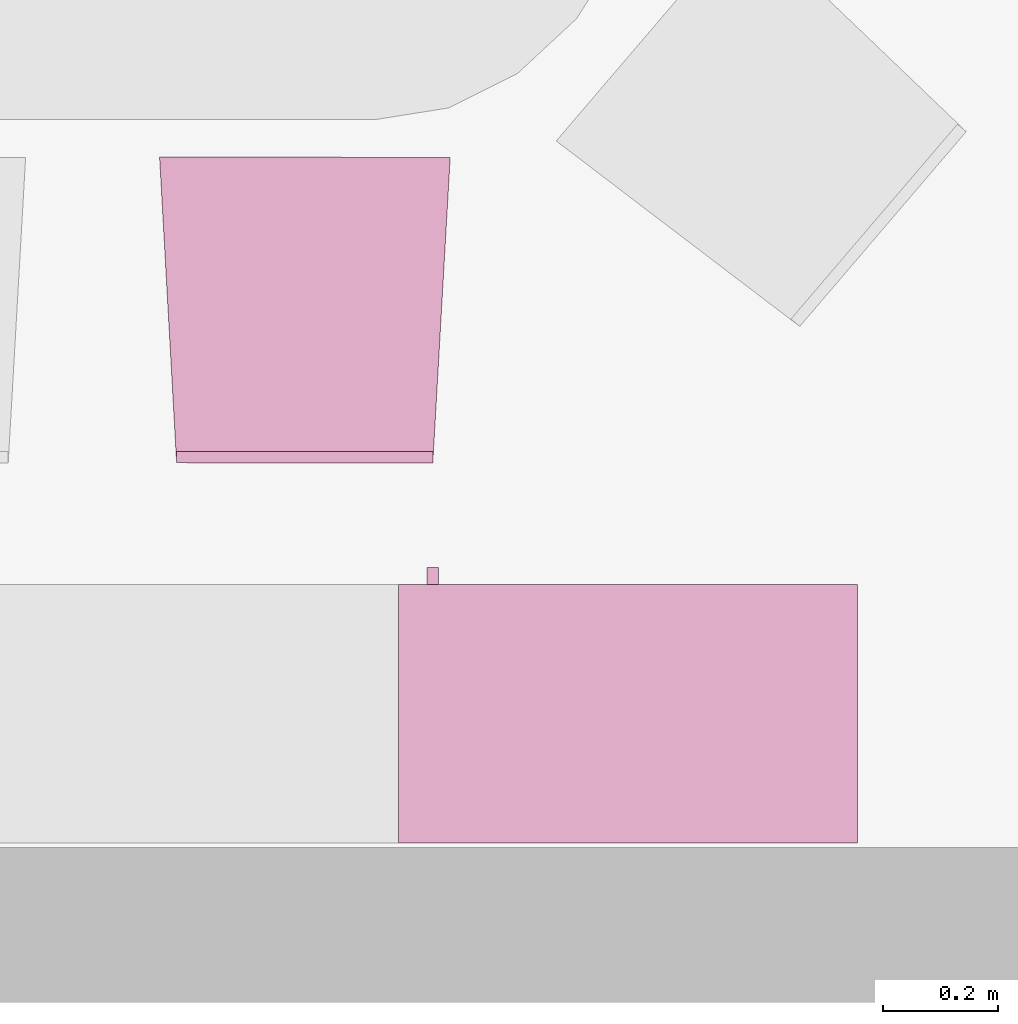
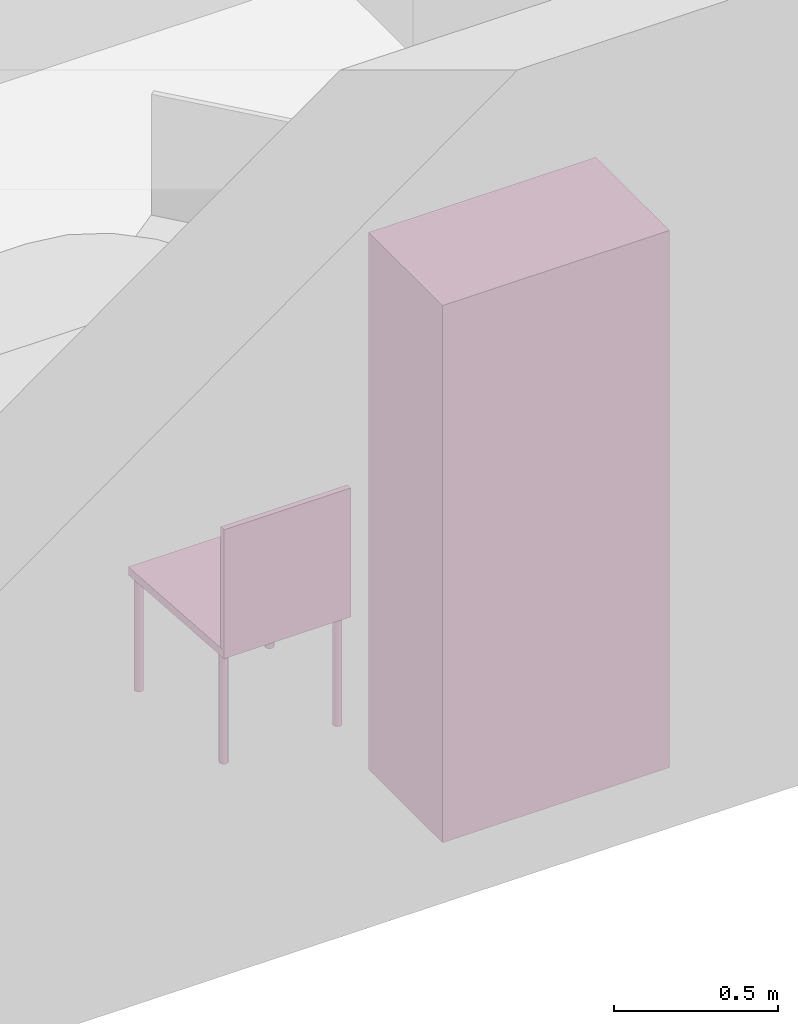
"""IFC4 building model written with IfcOpenShell, lengths in metres."""

from ifc_helpers import new_model, entity, si_unit, converted_unit, derived_unit, frame, origin, place, context, subcontext, project, spatial, faceted_brep, element, save


model = new_model("IFC4")

# Units and contexts
model_context = context("Model", 3, precision=1e-05, world=origin())
body_context = subcontext(model_context, "Body", "Model", "MODEL_VIEW")
ifc_project = project(units=[si_unit("LENGTHUNIT", "METRE"), si_unit("AREAUNIT", "SQUARE_METRE"), si_unit("VOLUMEUNIT", "CUBIC_METRE"), si_unit("MASSUNIT", "GRAM", prefix="KILO"), converted_unit("PLANEANGLEUNIT", "DEGREE", entity("IfcPlaneAngleMeasure", 0.0174532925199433), si_unit("PLANEANGLEUNIT", "RADIAN"), dimensions=[0, 0, 0, 0, 0, 0, 0]), derived_unit("THERMALTRANSMITTANCEUNIT", [(si_unit("POWERUNIT", "WATT"), 1), (si_unit("THERMODYNAMICTEMPERATUREUNIT", "KELVIN"), -1), (si_unit("LENGTHUNIT", "METRE"), -2)]), derived_unit("VOLUMETRICFLOWRATEUNIT", [(si_unit("LENGTHUNIT", "METRE"), 3), (converted_unit("TIMEUNIT", "hour", entity("IfcTimeMeasure", 3600.0), si_unit("TIMEUNIT", "SECOND"), dimensions=[0, 0, 1, 0, 0, 0, 0]), -1), (si_unit("LENGTHUNIT", "METRE"), -1)])], contexts=[model_context])

# Building, storeys
building_placement = place(None, origin())
building = spatial("IfcBuilding", under=ifc_project, at=building_placement, Name="HABITATGE PLURIFAMILIAR", CompositionType="ELEMENT")
storey_1_placement = place(building_placement, frame((0.0, 0.0, 12.27)))
storey_1 = spatial("IfcBuildingStorey", under=building, at=storey_1_placement, Name="PLANTA TERCERA", CompositionType="ELEMENT", Elevation=12.27)
storey_2_placement = place(storey_1_placement, frame((0.0, 0.0, 9.26)))
storey_2 = spatial("IfcBuildingStorey", under=storey_1, at=storey_2_placement, Name="NOU", CompositionType="PARTIAL")

# Furniture
furniture_1_placement = place(storey_2_placement, frame((409.209676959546, 13.1187866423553, -9.3599999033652)))
element("IfcFurniture", 1, at=furniture_1_placement, inside=storey_2, Name="Armai 80x45_P3", context=body_context, shape_type="Brep", body=[
    faceted_brep([(0.78, 0.430000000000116, 1.98), (0.78, 0.450000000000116, 1.98), (0.78, 0.450000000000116, 0.02), (0.78, 0.430000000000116, 0.02), (0.0, 0.450000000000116, 0.02), (0.0, 0.430000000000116, 0.02), (0.0, 0.450000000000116, 1.98), (0.0, 0.430000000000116, 1.98)], [[[0, 1, 2, 3]], [[3, 2, 4, 5]], [[5, 4, 6, 7]], [[7, 6, 1, 0]], [[0, 3, 5, 7]], [[1, 6, 4, 2]]], orient=[[False], [False], [False], [False], [False], [False]]),
    faceted_brep([(0.8, 0.450000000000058, 1.98), (0.78, 0.450000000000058, 1.98), (0.78, 0.450000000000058, 0.02), (0.8, 0.450000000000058, 0.02), (0.78, 0.0, 0.02), (0.8, 0.0, 0.02), (0.78, 0.0, 1.98), (0.8, 0.0, 1.98)], [[[0, 1, 2, 3]], [[3, 2, 4, 5]], [[5, 4, 6, 7]], [[7, 6, 1, 0]], [[0, 3, 5, 7]], [[1, 6, 4, 2]]], orient=[[False], [False], [False], [False], [False], [False]]),
    faceted_brep([(0.0, 0.450000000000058, 0.02), (0.0, 0.450000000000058, 0.0), (0.8, 0.450000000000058, 0.0), (0.8, 0.450000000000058, 0.02), (0.8, 0.0, 0.0), (0.8, 0.0, 0.02), (0.0, 0.0, 0.0), (0.0, 0.0, 0.02)], [[[0, 1, 2, 3]], [[3, 2, 4, 5]], [[5, 4, 6, 7]], [[7, 6, 1, 0]], [[0, 3, 5, 7]], [[1, 6, 4, 2]]], orient=[[False], [False], [False], [False], [False], [False]]),
    faceted_brep([(0.0, 0.450000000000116, 2.0), (0.0, 0.450000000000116, 1.98), (0.8, 0.450000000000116, 1.98), (0.8, 0.450000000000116, 2.0), (0.8, 0.0, 1.98), (0.8, 0.0, 2.0), (0.0, 0.0, 1.98), (0.0, 0.0, 2.0)], [[[0, 1, 2, 3]], [[3, 2, 4, 5]], [[5, 4, 6, 7]], [[7, 6, 1, 0]], [[0, 3, 5, 7]], [[1, 6, 4, 2]]], orient=[[False], [False], [False], [False], [False], [False]]),
    faceted_brep([(0.02, 0.450000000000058, 1.98), (0.0, 0.450000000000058, 1.98), (0.0, 0.450000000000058, 0.02), (0.02, 0.450000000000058, 0.02), (0.0, 0.0, 0.02), (0.02, 0.0, 0.02), (0.0, 0.0, 1.98), (0.02, 0.0, 1.98)], [[[0, 1, 2, 3]], [[3, 2, 4, 5]], [[5, 4, 6, 7]], [[7, 6, 1, 0]], [[0, 3, 5, 7]], [[1, 6, 4, 2]]], orient=[[False], [False], [False], [False], [False], [False]]),
    faceted_brep([(0.78, 0.0, 1.98), (0.78, 0.0200000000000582, 1.98), (0.78, 0.0200000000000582, 0.02), (0.78, 0.0, 0.02), (0.02, 0.0200000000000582, 0.02), (0.02, 0.0, 0.02), (0.02, 0.0200000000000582, 1.98), (0.02, 0.0, 1.98)], [[[0, 1, 2, 3]], [[3, 2, 4, 5]], [[5, 4, 6, 7]], [[7, 6, 1, 0]], [[0, 3, 5, 7]], [[1, 6, 4, 2]]], orient=[[False], [False], [False], [False], [False], [False]]),
    faceted_brep([(0.0, 0.430000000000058, 1.98), (0.0, 0.450000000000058, 1.98), (0.0, 0.450000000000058, 0.02), (0.0, 0.430000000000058, 0.02), (0.02, 0.450000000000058, 0.02), (0.02, 0.430000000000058, 0.02), (0.02, 0.450000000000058, 1.98), (0.02, 0.430000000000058, 1.98)], [[[0, 1, 2, 3]], [[3, 2, 4, 5]], [[5, 4, 6, 7]], [[7, 6, 1, 0]], [[0, 3, 5, 7]], [[1, 6, 4, 2]]], orient=[[False], [False], [False], [False], [False], [False]]),
    faceted_brep([(0.07, 0.450000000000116, 1.01806481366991), (0.07, 0.480000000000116, 1.01806481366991), (0.07, 0.480000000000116, 0.918064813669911), (0.07, 0.450000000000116, 0.918064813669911), (0.05, 0.480000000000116, 0.918064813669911), (0.05, 0.450000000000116, 0.918064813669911), (0.05, 0.480000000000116, 1.01806481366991), (0.05, 0.450000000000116, 1.01806481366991)], [[[0, 1, 2, 3]], [[3, 2, 4, 5]], [[5, 4, 6, 7]], [[7, 6, 1, 0]], [[0, 3, 5, 7]], [[1, 6, 4, 2]]], orient=[[False], [False], [False], [False], [False], [False]]),
])
furniture_2_placement = place(storey_2_placement, frame((408.793371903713, 13.7810152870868, -9.35960511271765)))
element("IfcFurniture", 2, at=furniture_2_placement, inside=storey_2, Name="Cadira confident_P3", context=body_context, shape_type="Brep", body=[
    faceted_brep([(0.49721229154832, 0.507507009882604, 0.0), (0.496985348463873, 0.510100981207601, 0.0), (0.496311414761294, 0.512616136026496, 0.0), (0.495210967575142, 0.514976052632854, 0.0), (0.493717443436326, 0.517109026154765, 0.0), (0.491876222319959, 0.518950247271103, 0.0), (0.48974324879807, 0.520443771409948, 0.0), (0.487383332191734, 0.5215442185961, 0.0), (0.484868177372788, 0.522218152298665, 0.0), (0.482274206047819, 0.522445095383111, 0.0), (0.479680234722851, 0.522218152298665, 0.0), (0.477165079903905, 0.5215442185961, 0.0), (0.474805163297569, 0.520443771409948, 0.0), (0.47267218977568, 0.518950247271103, 0.0), (0.470830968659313, 0.517109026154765, 0.0), (0.469337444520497, 0.514976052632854, 0.0), (0.468236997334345, 0.512616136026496, 0.0), (0.467563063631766, 0.510100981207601, 0.0), (0.467336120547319, 0.507507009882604, 0.0), (0.467563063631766, 0.504913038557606, 0.0), (0.468236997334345, 0.502397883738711, 0.0), (0.469337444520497, 0.500037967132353, 0.0), (0.470830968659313, 0.497904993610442, 0.0), (0.47267218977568, 0.496063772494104, 0.0), (0.474805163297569, 0.49457024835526, 0.0), (0.477165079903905, 0.493469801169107, 0.0), (0.479680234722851, 0.492795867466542, 0.0), (0.482274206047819, 0.492568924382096, 0.0), (0.484868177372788, 0.492795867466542, 0.0), (0.487383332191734, 0.493469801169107, 0.0), (0.48974324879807, 0.49457024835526, 0.0), (0.491876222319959, 0.496063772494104, 0.0), (0.493717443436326, 0.497904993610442, 0.0), (0.495210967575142, 0.500037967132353, 0.0), (0.496311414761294, 0.502397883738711, 0.0), (0.496985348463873, 0.504913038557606, 0.0), (0.49721229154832, 0.507507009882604, 0.44828198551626), (0.496985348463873, 0.504913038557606, 0.44828198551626), (0.496311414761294, 0.502397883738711, 0.44828198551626), (0.495210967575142, 0.500037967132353, 0.44828198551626), (0.493717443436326, 0.497904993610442, 0.44828198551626), (0.491876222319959, 0.496063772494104, 0.44828198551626), (0.48974324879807, 0.49457024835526, 0.44828198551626), (0.487383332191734, 0.493469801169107, 0.44828198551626), (0.484868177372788, 0.492795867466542, 0.44828198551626), (0.482274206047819, 0.492568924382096, 0.44828198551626), (0.479680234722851, 0.492795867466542, 0.44828198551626), (0.477165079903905, 0.493469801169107, 0.44828198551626), (0.474805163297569, 0.49457024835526, 0.44828198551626), (0.47267218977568, 0.496063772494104, 0.44828198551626), (0.470830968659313, 0.497904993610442, 0.44828198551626), (0.469337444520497, 0.500037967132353, 0.44828198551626), (0.468236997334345, 0.502397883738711, 0.44828198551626), (0.467563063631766, 0.504913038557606, 0.44828198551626), (0.467336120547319, 0.507507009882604, 0.44828198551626), (0.467563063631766, 0.510100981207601, 0.44828198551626), (0.468236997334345, 0.512616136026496, 0.44828198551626), (0.469337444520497, 0.514976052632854, 0.44828198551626), (0.470830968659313, 0.517109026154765, 0.44828198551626), (0.47267218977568, 0.518950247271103, 0.44828198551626), (0.474805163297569, 0.520443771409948, 0.44828198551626), (0.477165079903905, 0.5215442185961, 0.44828198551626), (0.479680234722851, 0.522218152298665, 0.44828198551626), (0.482274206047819, 0.522445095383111, 0.44828198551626), (0.484868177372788, 0.522218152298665, 0.44828198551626), (0.487383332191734, 0.5215442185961, 0.44828198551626), (0.48974324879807, 0.520443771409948, 0.44828198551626), (0.491876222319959, 0.518950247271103, 0.44828198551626), (0.493717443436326, 0.517109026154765, 0.44828198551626), (0.495210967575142, 0.514976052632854, 0.44828198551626), (0.496311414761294, 0.512616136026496, 0.44828198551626), (0.496985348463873, 0.510100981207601, 0.44828198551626)], [[[0, 1, 2, 3, 4, 5, 6, 7, 8, 9, 10, 11, 12, 13, 14, 15, 16, 17, 18, 19, 20, 21, 22, 23, 24, 25, 26, 27, 28, 29, 30, 31, 32, 33, 34, 35]], [[36, 37, 38, 39, 40, 41, 42, 43, 44, 45, 46, 47, 48, 49, 50, 51, 52, 53, 54, 55, 56, 57, 58, 59, 60, 61, 62, 63, 64, 65, 66, 67, 68, 69, 70, 71]], [[35, 37, 36, 0]], [[34, 38, 37, 35]], [[33, 39, 38, 34]], [[32, 40, 39, 33]], [[31, 41, 40, 32]], [[30, 42, 41, 31]], [[29, 43, 42, 30]], [[28, 44, 43, 29]], [[27, 45, 44, 28]], [[26, 46, 45, 27]], [[25, 47, 46, 26]], [[24, 48, 47, 25]], [[23, 49, 48, 24]], [[22, 50, 49, 23]], [[21, 51, 50, 22]], [[20, 52, 51, 21]], [[19, 53, 52, 20]], [[18, 54, 53, 19]], [[17, 55, 54, 18]], [[16, 56, 55, 17]], [[15, 57, 56, 16]], [[14, 58, 57, 15]], [[13, 59, 58, 14]], [[12, 60, 59, 13]], [[11, 61, 60, 12]], [[10, 62, 61, 11]], [[9, 63, 62, 10]], [[8, 64, 63, 9]], [[7, 65, 64, 8]], [[6, 66, 65, 7]], [[5, 67, 66, 6]], [[4, 68, 67, 5]], [[3, 69, 68, 4]], [[2, 70, 69, 3]], [[1, 71, 70, 2]], [[0, 36, 71, 1]]], orient=[[False], [False], [False], [False], [False], [False], [False], [False], [False], [False], [False], [False], [False], [False], [False], [False], [False], [False], [False], [False], [False], [False], [False], [False], [False], [False], [False], [False], [False], [False], [False], [False], [False], [False], [False], [False], [False], [False]]),
    faceted_brep([(0.469302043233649, 0.0451163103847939, 0.0), (0.469075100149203, 0.0477102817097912, 0.0), (0.468401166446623, 0.0502254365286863, 0.0), (0.467300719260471, 0.052585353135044, 0.0), (0.465807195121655, 0.0547183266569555, 0.0), (0.463965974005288, 0.0565595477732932, 0.0), (0.461833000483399, 0.058053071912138, 0.0), (0.459473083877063, 0.0591535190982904, 0.0), (0.456957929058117, 0.0598274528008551, 0.0), (0.454363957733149, 0.0600543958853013, 0.0), (0.451769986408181, 0.0598274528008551, 0.0), (0.449254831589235, 0.0591535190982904, 0.0), (0.446894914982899, 0.058053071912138, 0.0), (0.444761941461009, 0.0565595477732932, 0.0), (0.442920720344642, 0.0547183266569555, 0.0), (0.441427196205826, 0.052585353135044, 0.0), (0.440326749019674, 0.0502254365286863, 0.0), (0.439652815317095, 0.0477102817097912, 0.0), (0.439425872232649, 0.0451163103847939, 0.0), (0.439652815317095, 0.0425223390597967, 0.0), (0.440326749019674, 0.0400071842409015, 0.0), (0.441427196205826, 0.0376472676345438, 0.0), (0.442920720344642, 0.0355142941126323, 0.0), (0.444761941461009, 0.0336730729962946, 0.0), (0.446894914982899, 0.0321795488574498, 0.0), (0.449254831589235, 0.0310791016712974, 0.0), (0.451769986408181, 0.0304051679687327, 0.0), (0.454363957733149, 0.0301782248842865, 0.0), (0.456957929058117, 0.0304051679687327, 0.0), (0.459473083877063, 0.0310791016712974, 0.0), (0.461833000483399, 0.0321795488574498, 0.0), (0.463965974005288, 0.0336730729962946, 0.0), (0.465807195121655, 0.0355142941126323, 0.0), (0.467300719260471, 0.0376472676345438, 0.0), (0.468401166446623, 0.0400071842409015, 0.0), (0.469075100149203, 0.0425223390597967, 0.0), (0.469302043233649, 0.0451163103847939, 0.44828198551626), (0.469075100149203, 0.0425223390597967, 0.44828198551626), (0.468401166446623, 0.0400071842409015, 0.44828198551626), (0.467300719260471, 0.0376472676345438, 0.44828198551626), (0.465807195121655, 0.0355142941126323, 0.44828198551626), (0.463965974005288, 0.0336730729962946, 0.44828198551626), (0.461833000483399, 0.0321795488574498, 0.44828198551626), (0.459473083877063, 0.0310791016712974, 0.44828198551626), (0.456957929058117, 0.0304051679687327, 0.44828198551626), (0.454363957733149, 0.0301782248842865, 0.44828198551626), (0.451769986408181, 0.0304051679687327, 0.44828198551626), (0.449254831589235, 0.0310791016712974, 0.44828198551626), (0.446894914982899, 0.0321795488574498, 0.44828198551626), (0.444761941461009, 0.0336730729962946, 0.44828198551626), (0.442920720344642, 0.0355142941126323, 0.44828198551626), (0.441427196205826, 0.0376472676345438, 0.44828198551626), (0.440326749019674, 0.0400071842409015, 0.44828198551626), (0.439652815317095, 0.0425223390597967, 0.44828198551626), (0.439425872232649, 0.0451163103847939, 0.44828198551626), (0.439652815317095, 0.0477102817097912, 0.44828198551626), (0.440326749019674, 0.0502254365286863, 0.44828198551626), (0.441427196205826, 0.052585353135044, 0.44828198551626), (0.442920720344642, 0.0547183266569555, 0.44828198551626), (0.444761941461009, 0.0565595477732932, 0.44828198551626), (0.446894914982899, 0.058053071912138, 0.44828198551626), (0.449254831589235, 0.0591535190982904, 0.44828198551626), (0.451769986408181, 0.0598274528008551, 0.44828198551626), (0.454363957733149, 0.0600543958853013, 0.44828198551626), (0.456957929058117, 0.0598274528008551, 0.44828198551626), (0.459473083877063, 0.0591535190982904, 0.44828198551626), (0.461833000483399, 0.058053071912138, 0.44828198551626), (0.463965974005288, 0.0565595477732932, 0.44828198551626), (0.465807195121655, 0.0547183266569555, 0.44828198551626), (0.467300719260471, 0.052585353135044, 0.44828198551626), (0.468401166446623, 0.0502254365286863, 0.44828198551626), (0.469075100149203, 0.0477102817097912, 0.44828198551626)], [[[0, 1, 2, 3, 4, 5, 6, 7, 8, 9, 10, 11, 12, 13, 14, 15, 16, 17, 18, 19, 20, 21, 22, 23, 24, 25, 26, 27, 28, 29, 30, 31, 32, 33, 34, 35]], [[36, 37, 38, 39, 40, 41, 42, 43, 44, 45, 46, 47, 48, 49, 50, 51, 52, 53, 54, 55, 56, 57, 58, 59, 60, 61, 62, 63, 64, 65, 66, 67, 68, 69, 70, 71]], [[35, 37, 36, 0]], [[34, 38, 37, 35]], [[33, 39, 38, 34]], [[32, 40, 39, 33]], [[31, 41, 40, 32]], [[30, 42, 41, 31]], [[29, 43, 42, 30]], [[28, 44, 43, 29]], [[27, 45, 44, 28]], [[26, 46, 45, 27]], [[25, 47, 46, 26]], [[24, 48, 47, 25]], [[23, 49, 48, 24]], [[22, 50, 49, 23]], [[21, 51, 50, 22]], [[20, 52, 51, 21]], [[19, 53, 52, 20]], [[18, 54, 53, 19]], [[17, 55, 54, 18]], [[16, 56, 55, 17]], [[15, 57, 56, 16]], [[14, 58, 57, 15]], [[13, 59, 58, 14]], [[12, 60, 59, 13]], [[11, 61, 60, 12]], [[10, 62, 61, 11]], [[9, 63, 62, 10]], [[8, 64, 63, 9]], [[7, 65, 64, 8]], [[6, 66, 65, 7]], [[5, 67, 66, 6]], [[4, 68, 67, 5]], [[3, 69, 68, 4]], [[2, 70, 69, 3]], [[1, 71, 70, 2]], [[0, 36, 71, 1]]], orient=[[False], [False], [False], [False], [False], [False], [False], [False], [False], [False], [False], [False], [False], [False], [False], [False], [False], [False], [False], [False], [False], [False], [False], [False], [False], [False], [False], [False], [False], [False], [False], [False], [False], [False], [False], [False], [False], [False]]),
    faceted_brep([(0.0372123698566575, 0.507777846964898, 0.0), (0.0369854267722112, 0.510371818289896, 0.0), (0.036311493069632, 0.512886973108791, 0.0), (0.0352110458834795, 0.515246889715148, 0.0), (0.0337175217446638, 0.51737986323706, 0.0), (0.031876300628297, 0.519221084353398, 0.0), (0.0297433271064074, 0.520714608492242, 0.0), (0.0273834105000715, 0.521815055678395, 0.0), (0.0248682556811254, 0.52248898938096, 0.0), (0.0222742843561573, 0.522715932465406, 0.0), (0.0196803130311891, 0.52248898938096, 0.0), (0.0171651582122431, 0.521815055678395, 0.0), (0.0148052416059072, 0.520714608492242, 0.0), (0.0126722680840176, 0.519221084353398, 0.0), (0.0108310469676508, 0.51737986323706, 0.0), (0.00933752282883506, 0.515246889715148, 0.0), (0.00823707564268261, 0.512886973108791, 0.0), (0.00756314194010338, 0.510371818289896, 0.0), (0.00733619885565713, 0.507777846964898, 0.0), (0.00756314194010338, 0.505183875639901, 0.0), (0.00823707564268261, 0.502668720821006, 0.0), (0.00933752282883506, 0.500308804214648, 0.0), (0.0108310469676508, 0.498175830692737, 0.0), (0.0126722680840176, 0.496334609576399, 0.0), (0.0148052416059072, 0.494841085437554, 0.0), (0.0171651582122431, 0.493740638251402, 0.0), (0.0196803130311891, 0.493066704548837, 0.0), (0.0222742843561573, 0.492839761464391, 0.0), (0.0248682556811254, 0.493066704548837, 0.0), (0.0273834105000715, 0.493740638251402, 0.0), (0.0297433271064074, 0.494841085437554, 0.0), (0.031876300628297, 0.496334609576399, 0.0), (0.0337175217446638, 0.498175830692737, 0.0), (0.0352110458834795, 0.500308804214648, 0.0), (0.036311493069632, 0.502668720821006, 0.0), (0.0369854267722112, 0.505183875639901, 0.0), (0.0372123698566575, 0.507777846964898, 0.44828198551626), (0.0369854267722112, 0.505183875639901, 0.44828198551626), (0.036311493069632, 0.502668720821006, 0.44828198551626), (0.0352110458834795, 0.500308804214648, 0.44828198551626), (0.0337175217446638, 0.498175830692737, 0.44828198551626), (0.031876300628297, 0.496334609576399, 0.44828198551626), (0.0297433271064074, 0.494841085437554, 0.44828198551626), (0.0273834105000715, 0.493740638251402, 0.44828198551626), (0.0248682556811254, 0.493066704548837, 0.44828198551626), (0.0222742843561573, 0.492839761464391, 0.44828198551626), (0.0196803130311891, 0.493066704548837, 0.44828198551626), (0.0171651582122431, 0.493740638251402, 0.44828198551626), (0.0148052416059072, 0.494841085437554, 0.44828198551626), (0.0126722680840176, 0.496334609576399, 0.44828198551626), (0.0108310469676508, 0.498175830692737, 0.44828198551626), (0.00933752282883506, 0.500308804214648, 0.44828198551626), (0.00823707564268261, 0.502668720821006, 0.44828198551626), (0.00756314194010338, 0.505183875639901, 0.44828198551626), (0.00733619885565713, 0.507777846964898, 0.44828198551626), (0.00756314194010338, 0.510371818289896, 0.44828198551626), (0.00823707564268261, 0.512886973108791, 0.44828198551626), (0.00933752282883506, 0.515246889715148, 0.44828198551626), (0.0108310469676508, 0.51737986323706, 0.44828198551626), (0.0126722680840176, 0.519221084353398, 0.44828198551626), (0.0148052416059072, 0.520714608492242, 0.44828198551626), (0.0171651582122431, 0.521815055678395, 0.44828198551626), (0.0196803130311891, 0.52248898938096, 0.44828198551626), (0.0222742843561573, 0.522715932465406, 0.44828198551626), (0.0248682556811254, 0.52248898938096, 0.44828198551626), (0.0273834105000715, 0.521815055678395, 0.44828198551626), (0.0297433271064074, 0.520714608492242, 0.44828198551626), (0.031876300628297, 0.519221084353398, 0.44828198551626), (0.0337175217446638, 0.51737986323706, 0.44828198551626), (0.0352110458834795, 0.515246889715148, 0.44828198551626), (0.036311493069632, 0.512886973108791, 0.44828198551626), (0.0369854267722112, 0.510371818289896, 0.44828198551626)], [[[0, 1, 2, 3, 4, 5, 6, 7, 8, 9, 10, 11, 12, 13, 14, 15, 16, 17, 18, 19, 20, 21, 22, 23, 24, 25, 26, 27, 28, 29, 30, 31, 32, 33, 34, 35]], [[36, 37, 38, 39, 40, 41, 42, 43, 44, 45, 46, 47, 48, 49, 50, 51, 52, 53, 54, 55, 56, 57, 58, 59, 60, 61, 62, 63, 64, 65, 66, 67, 68, 69, 70, 71]], [[35, 37, 36, 0]], [[34, 38, 37, 35]], [[33, 39, 38, 34]], [[32, 40, 39, 33]], [[31, 41, 40, 32]], [[30, 42, 41, 31]], [[29, 43, 42, 30]], [[28, 44, 43, 29]], [[27, 45, 44, 28]], [[26, 46, 45, 27]], [[25, 47, 46, 26]], [[24, 48, 47, 25]], [[23, 49, 48, 24]], [[22, 50, 49, 23]], [[21, 51, 50, 22]], [[20, 52, 51, 21]], [[19, 53, 52, 20]], [[18, 54, 53, 19]], [[17, 55, 54, 18]], [[16, 56, 55, 17]], [[15, 57, 56, 16]], [[14, 58, 57, 15]], [[13, 59, 58, 14]], [[12, 60, 59, 13]], [[11, 61, 60, 12]], [[10, 62, 61, 11]], [[9, 63, 62, 10]], [[8, 64, 63, 9]], [[7, 65, 64, 8]], [[6, 66, 65, 7]], [[5, 67, 66, 6]], [[4, 68, 67, 5]], [[3, 69, 68, 4]], [[2, 70, 69, 3]], [[1, 71, 70, 2]], [[0, 36, 71, 1]]], orient=[[False], [False], [False], [False], [False], [False], [False], [False], [False], [False], [False], [False], [False], [False], [False], [False], [False], [False], [False], [False], [False], [False], [False], [False], [False], [False], [False], [False], [False], [False], [False], [False], [False], [False], [False], [False], [False], [False]]),
    faceted_brep([(0.0693021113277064, 0.0453518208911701, 0.0), (0.0690751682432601, 0.0479457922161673, 0.0), (0.0684012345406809, 0.0504609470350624, 0.0), (0.0673007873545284, 0.0528208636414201, 0.0), (0.0658072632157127, 0.0549538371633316, 0.0), (0.0639660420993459, 0.0567950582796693, 0.0), (0.0618330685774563, 0.0582885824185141, 0.0), (0.0594731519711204, 0.0593890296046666, 0.0), (0.0569579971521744, 0.0600629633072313, 0.0), (0.0543640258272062, 0.0602899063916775, 0.0), (0.0517700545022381, 0.0600629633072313, 0.0), (0.049254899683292, 0.0593890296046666, 0.0), (0.0468949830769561, 0.0582885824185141, 0.0), (0.0447620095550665, 0.0567950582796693, 0.0), (0.0429207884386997, 0.0549538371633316, 0.0), (0.041427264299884, 0.0528208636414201, 0.0), (0.0403268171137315, 0.0504609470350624, 0.0), (0.0396528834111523, 0.0479457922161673, 0.0), (0.039425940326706, 0.0453518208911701, 0.0), (0.0396528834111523, 0.0427578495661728, 0.0), (0.0403268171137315, 0.0402426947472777, 0.0), (0.041427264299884, 0.03788277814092, 0.0), (0.0429207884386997, 0.0357498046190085, 0.0), (0.0447620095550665, 0.0339085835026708, 0.0), (0.0468949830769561, 0.032415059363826, 0.0), (0.049254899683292, 0.0313146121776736, 0.0), (0.0517700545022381, 0.0306406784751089, 0.0), (0.0543640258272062, 0.0304137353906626, 0.0), (0.0569579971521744, 0.0306406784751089, 0.0), (0.0594731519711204, 0.0313146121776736, 0.0), (0.0618330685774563, 0.032415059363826, 0.0), (0.0639660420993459, 0.0339085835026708, 0.0), (0.0658072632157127, 0.0357498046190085, 0.0), (0.0673007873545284, 0.03788277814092, 0.0), (0.0684012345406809, 0.0402426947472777, 0.0), (0.0690751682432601, 0.0427578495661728, 0.0), (0.0693021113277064, 0.0453518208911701, 0.44828198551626), (0.0690751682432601, 0.0427578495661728, 0.44828198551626), (0.0684012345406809, 0.0402426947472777, 0.44828198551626), (0.0673007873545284, 0.03788277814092, 0.44828198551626), (0.0658072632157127, 0.0357498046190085, 0.44828198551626), (0.0639660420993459, 0.0339085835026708, 0.44828198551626), (0.0618330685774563, 0.032415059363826, 0.44828198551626), (0.0594731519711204, 0.0313146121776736, 0.44828198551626), (0.0569579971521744, 0.0306406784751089, 0.44828198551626), (0.0543640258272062, 0.0304137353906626, 0.44828198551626), (0.0517700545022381, 0.0306406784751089, 0.44828198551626), (0.049254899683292, 0.0313146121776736, 0.44828198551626), (0.0468949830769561, 0.032415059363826, 0.44828198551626), (0.0447620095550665, 0.0339085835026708, 0.44828198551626), (0.0429207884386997, 0.0357498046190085, 0.44828198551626), (0.041427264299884, 0.03788277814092, 0.44828198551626), (0.0403268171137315, 0.0402426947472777, 0.44828198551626), (0.0396528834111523, 0.0427578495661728, 0.44828198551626), (0.039425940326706, 0.0453518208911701, 0.44828198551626), (0.0396528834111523, 0.0479457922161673, 0.44828198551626), (0.0403268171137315, 0.0504609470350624, 0.44828198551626), (0.041427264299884, 0.0528208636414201, 0.44828198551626), (0.0429207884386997, 0.0549538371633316, 0.44828198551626), (0.0447620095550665, 0.0567950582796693, 0.44828198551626), (0.0468949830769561, 0.0582885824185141, 0.44828198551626), (0.049254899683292, 0.0593890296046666, 0.44828198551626), (0.0517700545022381, 0.0600629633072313, 0.44828198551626), (0.0543640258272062, 0.0602899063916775, 0.44828198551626), (0.0569579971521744, 0.0600629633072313, 0.44828198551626), (0.0594731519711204, 0.0593890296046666, 0.44828198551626), (0.0618330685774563, 0.0582885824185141, 0.44828198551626), (0.0639660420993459, 0.0567950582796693, 0.44828198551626), (0.0658072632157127, 0.0549538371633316, 0.44828198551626), (0.0673007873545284, 0.0528208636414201, 0.44828198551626), (0.0684012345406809, 0.0504609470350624, 0.44828198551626), (0.0690751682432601, 0.0479457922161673, 0.44828198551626)], [[[0, 1, 2, 3, 4, 5, 6, 7, 8, 9, 10, 11, 12, 13, 14, 15, 16, 17, 18, 19, 20, 21, 22, 23, 24, 25, 26, 27, 28, 29, 30, 31, 32, 33, 34, 35]], [[36, 37, 38, 39, 40, 41, 42, 43, 44, 45, 46, 47, 48, 49, 50, 51, 52, 53, 54, 55, 56, 57, 58, 59, 60, 61, 62, 63, 64, 65, 66, 67, 68, 69, 70, 71]], [[35, 37, 36, 0]], [[34, 38, 37, 35]], [[33, 39, 38, 34]], [[32, 40, 39, 33]], [[31, 41, 40, 32]], [[30, 42, 41, 31]], [[29, 43, 42, 30]], [[28, 44, 43, 29]], [[27, 45, 44, 28]], [[26, 46, 45, 27]], [[25, 47, 46, 26]], [[24, 48, 47, 25]], [[23, 49, 48, 24]], [[22, 50, 49, 23]], [[21, 51, 50, 22]], [[20, 52, 51, 21]], [[19, 53, 52, 20]], [[18, 54, 53, 19]], [[17, 55, 54, 18]], [[16, 56, 55, 17]], [[15, 57, 56, 16]], [[14, 58, 57, 15]], [[13, 59, 58, 14]], [[12, 60, 59, 13]], [[11, 61, 60, 12]], [[10, 62, 61, 11]], [[9, 63, 62, 10]], [[8, 64, 63, 9]], [[7, 65, 64, 8]], [[6, 66, 65, 7]], [[5, 67, 66, 6]], [[4, 68, 67, 5]], [[3, 69, 68, 4]], [[2, 70, 69, 3]], [[1, 71, 70, 2]], [[0, 36, 71, 1]]], orient=[[False], [False], [False], [False], [False], [False], [False], [False], [False], [False], [False], [False], [False], [False], [False], [False], [False], [False], [False], [False], [False], [False], [False], [False], [False], [False], [False], [False], [False], [False], [False], [False], [False], [False], [False], [False], [False], [False]]),
    faceted_brep([(0.0296864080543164, 0.000262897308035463, 0.41828198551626), (0.47620111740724, 0.0, 0.41828198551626), (0.506514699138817, 0.532590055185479, 0.41828198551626), (0.0, 0.532888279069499, 0.41828198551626), (0.0, 0.532888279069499, 0.44828198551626), (0.506514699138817, 0.532590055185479, 0.44828198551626), (0.47620111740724, 0.0, 0.44828198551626), (0.0296864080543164, 0.000262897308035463, 0.44828198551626)], [[[0, 1, 2, 3]], [[4, 5, 6, 7]], [[3, 4, 7, 0]], [[2, 5, 4, 3]], [[1, 6, 5, 2]], [[0, 7, 6, 1]]], orient=[[False], [False], [False], [False], [False], [False]]),
    faceted_brep([(0.0296981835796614, 0.0202628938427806, 0.44828198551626), (0.0296864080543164, 0.00026289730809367, 0.44828198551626), (0.47620111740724, 0.0, 0.44828198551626), (0.476212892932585, 0.0199999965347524, 0.44828198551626), (0.476212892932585, 0.0199999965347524, 0.898281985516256), (0.47620111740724, 0.0, 0.898281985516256), (0.0296864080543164, 0.00026289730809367, 0.898281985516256), (0.0296981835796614, 0.0202628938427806, 0.898281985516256)], [[[0, 1, 2, 3]], [[4, 5, 6, 7]], [[3, 4, 7, 0]], [[2, 5, 4, 3]], [[1, 6, 5, 2]], [[0, 7, 6, 1]]], orient=[[False], [False], [False], [False], [False], [False]]),
])

save(model, "model.ifc")
